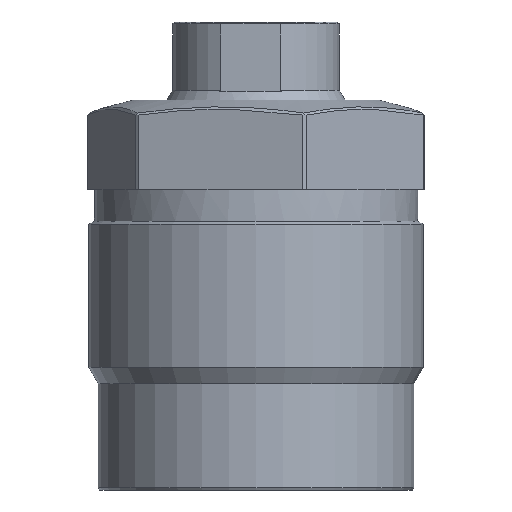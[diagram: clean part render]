
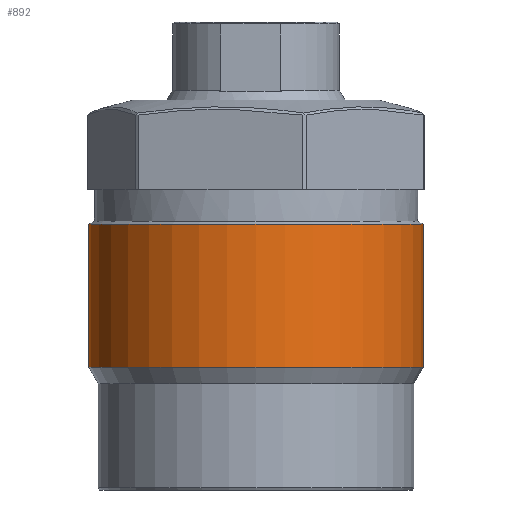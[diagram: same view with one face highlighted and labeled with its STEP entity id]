
A CAD part, front view. The second image highlights one B-rep face of the part: STEP entity #892.
In plain terms, the highlighted cylindrical face has radius 15 mm (diameter 30 mm), a partial arc.
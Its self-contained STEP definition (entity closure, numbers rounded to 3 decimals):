
#7 = CARTESIAN_POINT ( 'NONE',  ( 15., 0., 11. ) ) ;
#35 = DIRECTION ( 'NONE',  ( -1., 0., 0. ) ) ;
#85 = VECTOR ( 'NONE', #1756, 1000. ) ;
#245 = EDGE_CURVE ( 'NONE', #1467, #2843, #2247, .T. ) ;
#312 = DIRECTION ( 'NONE',  ( 0., 0., -1. ) ) ;
#398 = DIRECTION ( 'NONE',  ( -1., 0., 0. ) ) ;
#481 = AXIS2_PLACEMENT_3D ( 'NONE', #1899, #312, #35 ) ;
#667 = CARTESIAN_POINT ( 'NONE',  ( -15., 0., 27. ) ) ;
#685 = CIRCLE ( 'NONE', #2607, 15. ) ;
#686 = VERTEX_POINT ( 'NONE', #7 ) ;
#892 = ADVANCED_FACE ( 'NONE', ( #1501 ), #2588, .T. ) ;
#957 = LINE ( 'NONE', #2572, #2917 ) ;
#1077 = CARTESIAN_POINT ( 'NONE',  ( -15., 0., 11. ) ) ;
#1182 = CARTESIAN_POINT ( 'NONE',  ( 0., 0., 27. ) ) ;
#1362 = CARTESIAN_POINT ( 'NONE',  ( 15., 0., 23.845 ) ) ;
#1377 = AXIS2_PLACEMENT_3D ( 'NONE', #1182, #3348, #398 ) ;
#1467 = VERTEX_POINT ( 'NONE', #3018 ) ;
#1501 = FACE_OUTER_BOUND ( 'NONE', #2800, .T. ) ;
#1578 = ORIENTED_EDGE ( 'NONE', *, *, #2880, .T. ) ;
#1655 = ORIENTED_EDGE ( 'NONE', *, *, #2990, .F. ) ;
#1756 = DIRECTION ( 'NONE',  ( 0., 0., -1. ) ) ;
#1899 = CARTESIAN_POINT ( 'NONE',  ( 0., 0., 23.845 ) ) ;
#2247 = LINE ( 'NONE', #667, #85 ) ;
#2286 = DIRECTION ( 'NONE',  ( -1., 0., 0. ) ) ;
#2291 = DIRECTION ( 'NONE',  ( 0., 0., -1. ) ) ;
#2335 = ORIENTED_EDGE ( 'NONE', *, *, #2378, .T. ) ;
#2378 = EDGE_CURVE ( 'NONE', #2843, #686, #685, .T. ) ;
#2512 = CARTESIAN_POINT ( 'NONE',  ( 0., 0., 11. ) ) ;
#2572 = CARTESIAN_POINT ( 'NONE',  ( 15., 0., 27. ) ) ;
#2588 = CYLINDRICAL_SURFACE ( 'NONE', #1377, 15. ) ;
#2607 = AXIS2_PLACEMENT_3D ( 'NONE', #2512, #2793, #2286 ) ;
#2649 = ORIENTED_EDGE ( 'NONE', *, *, #245, .T. ) ;
#2793 = DIRECTION ( 'NONE',  ( 0., 0., 1. ) ) ;
#2800 = EDGE_LOOP ( 'NONE', ( #1655, #1578, #2649, #2335 ) ) ;
#2843 = VERTEX_POINT ( 'NONE', #1077 ) ;
#2880 = EDGE_CURVE ( 'NONE', #3379, #1467, #3488, .T. ) ;
#2917 = VECTOR ( 'NONE', #2291, 1000. ) ;
#2990 = EDGE_CURVE ( 'NONE', #3379, #686, #957, .T. ) ;
#3018 = CARTESIAN_POINT ( 'NONE',  ( -15., 0., 23.845 ) ) ;
#3348 = DIRECTION ( 'NONE',  ( 0., 0., -1. ) ) ;
#3379 = VERTEX_POINT ( 'NONE', #1362 ) ;
#3488 = CIRCLE ( 'NONE', #481, 15. ) ;
